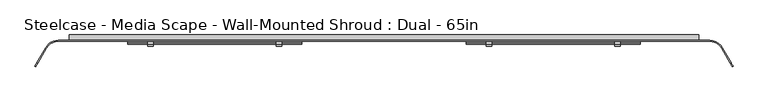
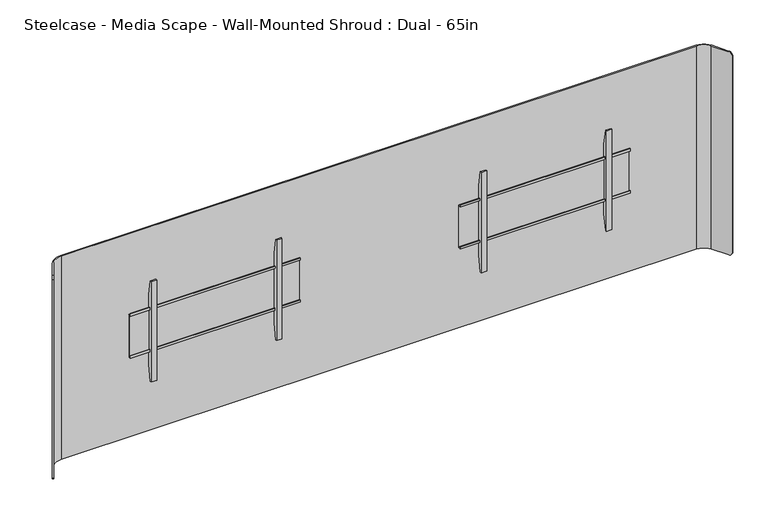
"""IFC4 building model written with IfcOpenShell, lengths in millimetres: furniture geometry, Steelcase - Media Scape - Wall-Mounted Shroud : Dual - 65in."""

from ifc_helpers import new_model, si_unit, frame, origin, place, context, project, spatial, polyline, circle_curve, outline, extrude, source, transform, mapped, element, save
from ifc_brep_helpers import plane_surface, cylinder_surface, revolved_surface, advanced_brep


def steelcase_media_scape_wall_mounted_shroud_dual_65in_c082a8a5(model_context):
    return source(origin(), model_context, "Body", "SolidModel", [
        extrude(outline(polyline([(-42.4942785, 1453.5504726), (-42.4942785, 1465.5645649), (-39.8272175, 1465.5645649), (-39.8272175, 1456.217461), (-29.9720009, 1456.217461), (-29.9720009, 1241.8922438), (-42.3164551, 1241.8922438), (-42.3164551, 1252.8142515), (-39.649394, 1252.8142515), (-39.649394, 1244.557052), (-32.6531824, 1244.557052), (-32.6531824, 1453.5504726), (-42.4942785, 1453.5504726)])), frame((382.524, 0.0, 0.0), z_axis=(1.0, 0.0, 0.0), x_axis=(0.0, 1.0, 0.0)), (0.0, 0.0, 1.0), 812.8),
        extrude(outline(polyline([(-32.6531824, 1524.4971148), (-32.6531824, 1172.6825607), (-46.5049349, 1095.0546949), (-53.3399828, 1095.0546949), (-53.3399828, 1603.0547192), (-46.5050076, 1603.0547192), (-32.6531824, 1524.4971148)])), frame((476.125426, 0.0, 0.0), z_axis=(1.0, 0.0, 0.0), x_axis=(0.0, 1.0, 0.0)), (0.0, 0.0, 1.0), 26.1592872),
        extrude(outline(polyline([(-32.6531824, 1524.4971148), (-32.6531824, 1172.6825607), (-46.5049349, 1095.0546949), (-53.3399828, 1095.0546949), (-53.3399828, 1603.0547192), (-46.5050076, 1603.0547192), (-32.6531824, 1524.4971148)])), frame((1075.5632868, 0.0, 0.0), z_axis=(1.0, 0.0, 0.0), x_axis=(0.0, 1.0, 0.0)), (0.0, 0.0, 1.0), 26.1592872),
        extrude(outline(polyline([(-42.4942785, 1453.5504726), (-42.4942785, 1465.5645649), (-39.8272175, 1465.5645649), (-39.8272175, 1456.217461), (-29.9720009, 1456.217461), (-29.9720009, 1241.8922438), (-42.3164551, 1241.8922438), (-42.3164551, 1252.8142515), (-39.649394, 1252.8142515), (-39.649394, 1244.557052), (-32.6531824, 1244.557052), (-32.6531824, 1453.5504726), (-42.4942785, 1453.5504726)])), frame((-1195.324, 0.0, 0.0), z_axis=(1.0, 0.0, 0.0), x_axis=(0.0, 1.0, 0.0)), (0.0, 0.0, 1.0), 812.8),
        extrude(outline(polyline([(-32.6531824, 1524.4971148), (-32.6531824, 1172.6825607), (-46.5049349, 1095.0546949), (-53.3399828, 1095.0546949), (-53.3399828, 1603.0547192), (-46.5050076, 1603.0547192), (-32.6531824, 1524.4971148)])), frame((-502.2847132, 0.0, 0.0), z_axis=(1.0, 0.0, 0.0), x_axis=(0.0, 1.0, 0.0)), (0.0, 0.0, 1.0), 26.1592872),
        extrude(outline(polyline([(-32.6531824, 1524.4971148), (-32.6531824, 1172.6825607), (-46.5049349, 1095.0546949), (-53.3399828, 1095.0546949), (-53.3399828, 1603.0547192), (-46.5050076, 1603.0547192), (-32.6531824, 1524.4971148)])), frame((-1101.722574, 0.0, 0.0), z_axis=(1.0, 0.0, 0.0), x_axis=(0.0, 1.0, 0.0)), (0.0, 0.0, 1.0), 26.1592872),
        advanced_brep(
        [(-1573.6586135, -61.722, 1864.614), (-1518.666002, -29.9720009, 1864.614), (1518.666, -29.9720009, 1864.614), (1573.6586135, -61.722, 1864.614), (1613.779586, -131.2135628, 1864.614), (1617.7390541, -128.9275628, 1864.614), (1577.6180817, -59.436, 1864.614), (1518.666002, -25.4, 1864.614), (-1518.666, -25.4, 1864.614), (-1577.6180817, -59.436, 1864.614), (-1617.7421659, -128.9329524, 1864.614), (-1613.7826977, -131.2189524, 1864.614), (-1577.6180817, -59.436, 835.914), (-1518.666002, -25.4, 835.914), (1518.666, -25.4, 835.914), (1577.6180817, -59.436, 835.914), (1617.7906629, -129.0169518, 835.914), (1613.8311948, -131.3029518, 835.914), (1573.6586135, -61.722, 835.914), (1518.666002, -29.9720009, 835.914), (-1518.666, -29.9720009, 835.914), (-1573.6586135, -61.722, 835.914), (-1613.8454014, -131.3275584, 835.914), (-1617.8048695, -129.0415584, 835.914), (-1627.3090632, -145.5033047, 849.5242766), (-1627.3090632, -145.5033047, 1850.6227735), (-1623.3495951, -147.7893047, 1850.6227735), (-1623.3495951, -147.7893047, 849.5242766), (1623.3270866, -147.7503189, 849.4756893), (1623.3270866, -147.7503189, 1850.7433849), (1627.2865547, -145.4643189, 1850.7433849), (1627.2865547, -145.4643189, 849.4756893)],
        [
            (0, 1, circle_curve(frame((-1518.666002, -93.4719991, 1864.614), z_axis=(0.0, 0.0, -1.0), x_axis=(0.0, 1.0, 0.0)), 63.4999981)),
            (1, 2),
            (2, 3, circle_curve(frame((1518.666002, -93.4719991, 1864.614), z_axis=(0.0, 0.0, -1.0), x_axis=(0.0, 1.0, 0.0)), 63.4999981)),
            (3, 4),
            (4, 5),
            (5, 6),
            (6, 7, circle_curve(frame((1518.6660004, -93.472, 1864.614), z_axis=(0.0, 0.0, 1.0), x_axis=(0.0, 1.0, 0.0)), 68.072)),
            (7, 8),
            (8, 9, circle_curve(frame((-1518.6660004, -93.472, 1864.614), z_axis=(0.0, 0.0, 1.0), x_axis=(0.0, 1.0, 0.0)), 68.072)),
            (9, 10),
            (10, 11),
            (11, 0),
            (12, 13, circle_curve(frame((-1518.6660004, -93.472, 835.914), z_axis=(0.0, 0.0, -1.0), x_axis=(0.0, 1.0, 0.0)), 68.072)),
            (13, 14),
            (14, 15, circle_curve(frame((1518.6660004, -93.472, 835.914), z_axis=(0.0, 0.0, -1.0), x_axis=(0.0, 1.0, 0.0)), 68.072)),
            (15, 16),
            (16, 17),
            (17, 18),
            (18, 19, circle_curve(frame((1518.666002, -93.4719991, 835.914), z_axis=(0.0, 0.0, 1.0), x_axis=(0.0, 1.0, 0.0)), 63.4999981)),
            (19, 20),
            (20, 21, circle_curve(frame((-1518.666002, -93.4719991, 835.914), z_axis=(0.0, 0.0, 1.0), x_axis=(0.0, 1.0, 0.0)), 63.4999981)),
            (21, 22),
            (22, 23),
            (23, 12),
            (0, 21),
            (20, 1),
            (8, 13),
            (12, 9),
            (23, 24, circle_curve(frame((-1617.8048695, -129.0415584, 855.9928872), z_axis=(-0.8660254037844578, 0.4999999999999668, 0.0), x_axis=(-0.4999999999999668, -0.8660254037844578, 0.0)), 20.0788872)),
            (24, 25),
            (25, 10, circle_curve(frame((-1617.7421659, -128.9329524, 1844.5351128), z_axis=(-0.866025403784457, 0.49999999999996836, 0.0), x_axis=(-0.49999999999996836, -0.866025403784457, 0.0)), 20.0788872)),
            (26, 25),
            (24, 27),
            (27, 26),
            (11, 26, circle_curve(frame((-1613.7826977, -131.2189524, 1844.5351128), z_axis=(0.866025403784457, -0.49999999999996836, 0.0), x_axis=(-0.49999999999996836, -0.866025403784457, 0.0)), 20.0788872)),
            (27, 22, circle_curve(frame((-1613.8454014, -131.3275584, 855.9928872), z_axis=(0.8660254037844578, -0.4999999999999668, 0.0), x_axis=(-0.4999999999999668, -0.8660254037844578, 0.0)), 20.0788872)),
            (7, 14),
            (19, 2),
            (3, 18),
            (17, 28, circle_curve(frame((1613.8311948, -131.3029518, 855.9928872), z_axis=(-0.8660254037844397, -0.49999999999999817, 0.0), x_axis=(0.49999999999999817, -0.8660254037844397, 0.0)), 20.0788872)),
            (28, 29),
            (29, 4, circle_curve(frame((1613.779586, -131.2135628, 1844.5351128), z_axis=(-0.8660254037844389, -0.49999999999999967, 0.0), x_axis=(0.49999999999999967, -0.8660254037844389, 0.0)), 20.0788872)),
            (30, 29),
            (28, 31),
            (31, 30),
            (15, 6),
            (5, 30, circle_curve(frame((1617.7390541, -128.9275628, 1844.5351128), z_axis=(0.8660254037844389, 0.49999999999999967, 0.0), x_axis=(0.49999999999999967, -0.8660254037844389, 0.0)), 20.0788872)),
            (31, 16, circle_curve(frame((1617.7906629, -129.0169518, 855.9928872), z_axis=(0.8660254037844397, 0.49999999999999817, 0.0), x_axis=(0.49999999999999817, -0.8660254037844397, 0.0)), 20.0788872)),
        ],
        [
            plane_surface(frame((-1518.666002, -29.9720009, 1864.614), z_axis=(0.0, 0.0, 1.0), x_axis=(1.0, 0.0, 0.0))),
            plane_surface(frame((-1518.666002, -29.9720009, 835.914), z_axis=(0.0, 0.0, -1.0), x_axis=(-1.0, 0.0, 0.0))),
            revolved_surface(polyline([(-1518.666002, -29.972001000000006, 835.914), (-1518.666002, -29.972001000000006, 1864.614)]), (-1518.666002, -93.4719991, 835.914), (0.0, 0.0, -1.0)),
            cylinder_surface(frame((-1518.6660004, -93.472, 835.914), z_axis=(0.0, 0.0, 1.0), x_axis=(0.0, 1.0, 0.0)), 68.072),
            plane_surface(frame((-1577.6180817, -59.436, 1864.614), z_axis=(-0.866025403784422, 0.5000000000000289, 0.0), x_axis=(0.0, 0.0, -1.0))),
            plane_surface(frame((-1627.3090632, -145.5033047, 1864.614), z_axis=(-0.5000000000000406, -0.8660254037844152, 0.0), x_axis=(0.0, 0.0, -1.0))),
            plane_surface(frame((-1623.3495951, -147.7893047, 1864.614), z_axis=(0.8660254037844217, -0.5000000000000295, 0.0), x_axis=(0.0, 0.0, -1.0))),
            plane_surface(frame((1518.666, -25.4, 1864.614), z_axis=(0.0, 1.0, 0.0), x_axis=(0.0, 0.0, -1.0))),
            plane_surface(frame((-1518.666, -29.9720009, 1864.614), z_axis=(0.0, -1.0, 0.0), x_axis=(0.0, 0.0, -1.0))),
            plane_surface(frame((1573.6586135, -61.722, 1864.614), z_axis=(-0.8660254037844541, -0.4999999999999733, 0.0), x_axis=(0.0, 0.0, -1.0))),
            plane_surface(frame((1623.3270866, -147.7503189, 1864.614), z_axis=(0.4999999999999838, -0.866025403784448, 0.0), x_axis=(0.0, 0.0, -1.0))),
            plane_surface(frame((1627.2865547, -145.4643189, 1864.614), z_axis=(0.8660254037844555, 0.49999999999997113, 0.0), x_axis=(0.0, 0.0, -1.0))),
            cylinder_surface(frame((1518.6660004, -93.472, 835.914), z_axis=(0.0, 0.0, 1.0), x_axis=(0.0, 1.0, 0.0)), 68.072),
            revolved_surface(polyline([(1518.666002, -29.972001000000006, 835.914), (1518.666002, -29.972001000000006, 1864.614)]), (1518.666002, -93.4719991, 835.914), (0.0, 0.0, -1.0)),
            cylinder_surface(frame((-1613.7826977, -131.2189524, 1844.5351128), z_axis=(0.866025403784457, -0.49999999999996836, 0.0), x_axis=(-0.49999999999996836, -0.866025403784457, 0.0)), 20.0788872),
            cylinder_surface(frame((-1613.8454014, -131.3275584, 855.9928872), z_axis=(0.8660254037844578, -0.4999999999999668, 0.0), x_axis=(-0.4999999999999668, -0.8660254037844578, 0.0)), 20.0788872),
            cylinder_surface(frame((1628.8864297, -122.4916225, 1844.5351128), z_axis=(0.8660254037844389, 0.49999999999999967, 0.0), x_axis=(0.49999999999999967, -0.8660254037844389, 0.0)), 20.0788872),
            cylinder_surface(frame((1626.0789695, -124.2316958, 855.9928872), z_axis=(0.8660254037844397, 0.49999999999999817, 0.0), x_axis=(0.49999999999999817, -0.8660254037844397, 0.0)), 20.0788872),
        ],
        [
            (0, [[1, 2, 3, 4, 5, 6, 7, 8, 9, 10, 11, 12]]),
            (1, [[13, 14, 15, 16, 17, 18, 19, 20, 21, 22, 23, 24]]),
            (2, [[-1, 25, -21, 26]]),
            (3, [[-9, 27, -13, 28]]),
            (4, [[-28, -24, 29, 30, 31, -10]]),
            (5, [[32, -30, 33, 34]]),
            (6, [[-25, -12, 35, -34, 36, -22]]),
            (7, [[-8, 37, -14, -27]]),
            (8, [[-2, -26, -20, 38]]),
            (9, [[39, -18, 40, 41, 42, -4]]),
            (10, [[43, -41, 44, 45]]),
            (11, [[46, -6, 47, -45, 48, -16]]),
            (12, [[-7, -46, -15, -37]]),
            (13, [[-3, -38, -19, -39]]),
            (14, [[-11, -31, -32, -35]]),
            (15, [[-23, -36, -33, -29]]),
            (16, [[-5, -42, -43, -47]]),
            (17, [[-17, -48, -44, -40]]),
        ],
    ),
        extrude(outline(polyline([(912.1648167, 1403.3499879), (912.1648167, 1466.85), (1788.414, 1466.85), (1788.414, -1466.85), (912.1648167, -1466.85), (912.1648167, -1404.3433465), (1724.9139516, -1404.3433465), (1724.9139516, 1403.3499879), (912.1648167, 1403.3499879)])), frame((0.0, -25.4, 0.0), z_axis=(0.0, 1.0, 0.0), x_axis=(0.0, 0.0, 1.0)), (0.0, 0.0, 1.0), 25.4),
    ])


if __name__ == "__main__":
    model = new_model("IFC4")
    model_context = context("Model", 3, world=origin())
    ifc_project = project(units=[si_unit("LENGTHUNIT", "METRE", prefix="MILLI")], contexts=[model_context])
    site = spatial("IfcSite", under=ifc_project)
    building = spatial("IfcBuilding", under=site)
    placement = place(None, origin())
    steelcase_media_scape_wall_mounted_shroud_dual_65in_shape = steelcase_media_scape_wall_mounted_shroud_dual_65in_c082a8a5(model_context)
    element("IfcFurniture", 1, ObjectType="Steelcase - Media Scape - Wall-Mounted Shroud : Dual - 65in", at=placement, inside=building, context=model_context, shape_type="MappedRepresentation", body=[
        mapped(steelcase_media_scape_wall_mounted_shroud_dual_65in_shape, transform((0.0, 0.0, 0.0), x_axis=(1.0, 0.0, 0.0), y_axis=(0.0, 1.0, 0.0), z_axis=(0.0, 0.0, 1.0))),
    ])
    save(model, "model.ifc")
